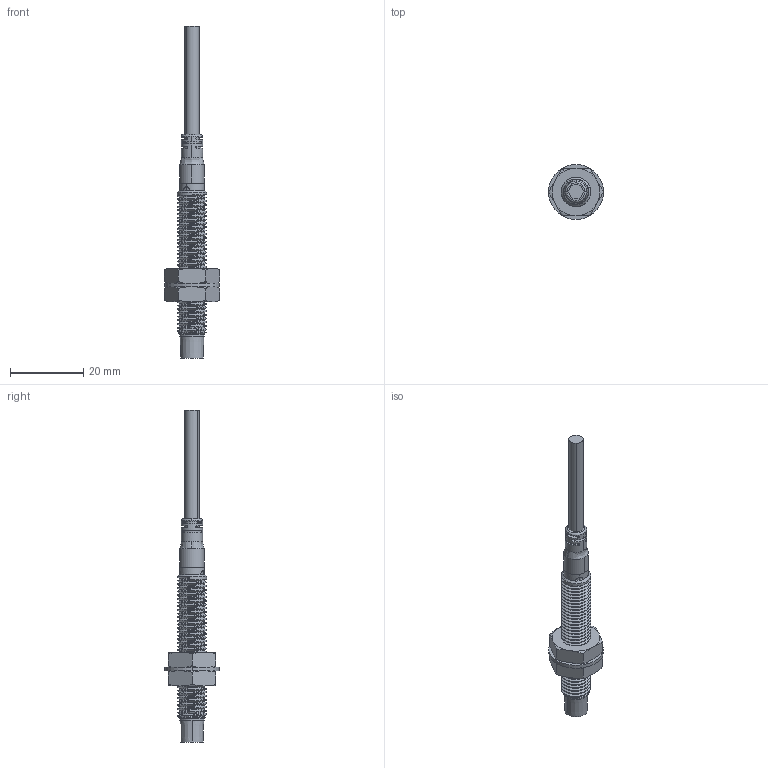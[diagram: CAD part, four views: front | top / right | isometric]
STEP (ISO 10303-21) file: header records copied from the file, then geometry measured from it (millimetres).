
FILE_DESCRIPTION (( 'STEP AP214' ), '1' );
FILE_NAME ('SN08Y-D-K40.STEP', '2025-08-20T10:26:27', ( 'Windows User' ), ( 'P R C' ), 'SwSTEP 2.0', 'SolidWorks 2023', '' );
FILE_SCHEMA (( 'AUTOMOTIVE_DESIGN' ));
Length unit declared in the file: millimetre
Products named in the file (10): GX-M08-非埋-带屏蔽.STEP_1; SN08Y-04DNAL.STEP_1; M8垫片_1; SD2005104-SN08Y包胶尾塞3D.STEP_1; SD2005095-M08带料斗导光后塞.STEP_1; 零件161_装配体50.STEP_1; 零件160_装配体50.STEP_1; SN08Y-D-K40; M8螺丝_1; SN08Y-非埋入式(2)
Assembly tree (10 placements, depth 4):
  SN08Y-D-K40
    SN08Y-非埋入式(2)
      SN08Y-04DNAL.STEP_1
        GX-M08-非埋-带屏蔽.STEP_1
        零件160_装配体50.STEP_1
        SD2005095-M08带料斗导光后塞.STEP_1
        零件161_装配体50.STEP_1
      M8螺丝_1  x2
      M8垫片_1
    SD2005104-SN08Y包胶尾塞3D.STEP_1
Bounding box: 15.01 x 15 x 90.6 mm (x, y, z)
Volume: 3292.8 mm3; surface area: 5204.8 mm2
Topology: 9 solids, 9 shells, 343 faces, 876 edges, 564 vertices
Faces by surface type: cylinder 178, plane 85, torus 37, cone 36, bspline 7
Entity records: 17376 total; most frequent: CARTESIAN_POINT 9805, ORIENTED_EDGE 1648, DIRECTION 1431, EDGE_CURVE 824, AXIS2_PLACEMENT_3D 574, VERTEX_POINT 534, EDGE_LOOP 354, FACE_OUTER_BOUND 319
